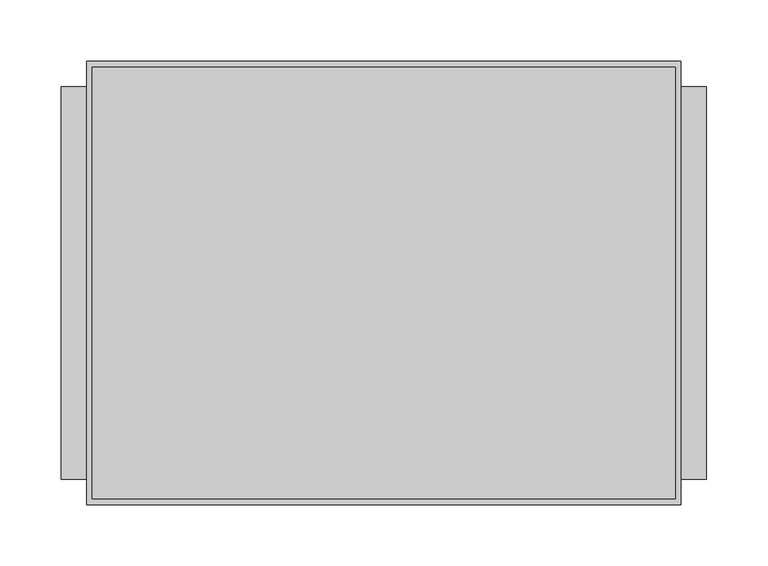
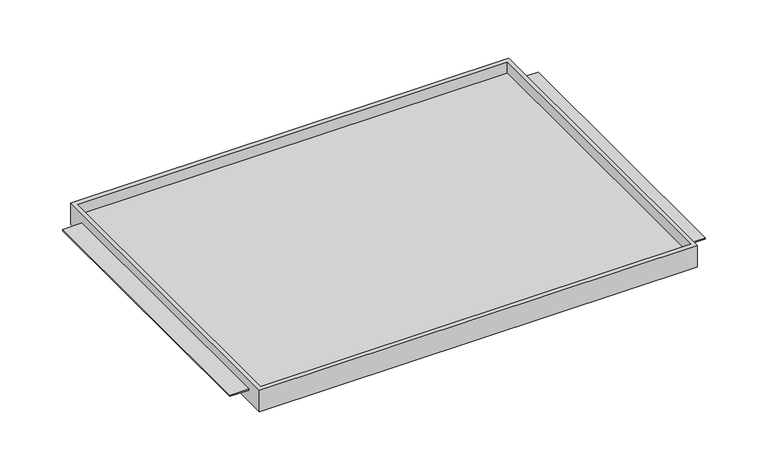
"""IFC4 building model written with IfcOpenShell, lengths in millimetres: furniture geometry."""

from ifc_helpers import new_model, si_unit, origin, place, context, project, spatial, faceted_brep, source, transform, mapped, element, save


def furniture_af5c8c58(model_context):
    return source(origin(), model_context, "Body", "Brep", [
        faceted_brep([(-242.7689646, -180.975, 1193.8), (242.7689646, -180.975, 1193.8), (242.7689646, -180.975, 1219.2), (-242.7689646, -180.975, 1219.2), (-242.7689646, 180.975, 1193.8), (-242.7689646, 180.975, 1219.2), (242.7689646, 180.975, 1219.2), (242.7689646, 180.975, 1193.8), (242.7689646, -160.3374879, 1208.1002), (242.7689646, 160.3374879, 1208.1002), (242.7689646, 160.3374879, 1206.5), (242.7689646, -160.3374879, 1206.5), (238.125, -176.2125, 1219.2), (-238.125, -176.2125, 1219.2), (-238.125, 175.91278, 1219.2), (238.125, 175.91278, 1219.2), (-242.7689646, 160.3374879, 1208.1002), (-242.7689646, -160.3374879, 1208.1002), (-242.7689646, -160.3374879, 1206.5), (-242.7689646, 160.3374879, 1206.5), (-238.125, -176.2125, 1206.5), (238.125, -176.2125, 1206.5), (238.125, 175.91278, 1206.5), (-238.125, 175.91278, 1206.5), (-263.525, 160.3374879, 1208.1002), (-263.525, -160.3374879, 1208.1002), (263.525, -160.3374879, 1208.1002), (263.525, 160.3374879, 1208.1002), (-263.525, -160.3374879, 1206.5), (-263.525, 160.3374879, 1206.5), (263.525, -160.3374879, 1206.5), (263.525, 160.3374879, 1206.5)], [[[0, 1, 2, 3]], [[4, 5, 6, 7]], [[1, 0, 4, 7]], [[2, 1, 7, 6], [8, 9, 10, 11]], [[3, 2, 6, 5], [12, 13, 14, 15]], [[0, 3, 5, 4], [16, 17, 18, 19]], [[20, 21, 22, 23]], [[21, 20, 13, 12]], [[22, 21, 12, 15]], [[23, 22, 15, 14]], [[20, 23, 14, 13]], [[16, 24, 25, 17]], [[26, 27, 9, 8]], [[18, 28, 29, 19]], [[30, 11, 10, 31]], [[24, 16, 19, 29]], [[25, 24, 29, 28]], [[17, 25, 28, 18]], [[27, 26, 30, 31]], [[9, 27, 31, 10]], [[26, 8, 11, 30]]]),
    ])


if __name__ == "__main__":
    model = new_model("IFC4")
    model_context = context("Model", 3, world=origin())
    ifc_project = project(units=[si_unit("LENGTHUNIT", "METRE", prefix="MILLI")], contexts=[model_context])
    site = spatial("IfcSite", under=ifc_project)
    building = spatial("IfcBuilding", under=site)
    placement = place(None, origin())
    furniture_shape = furniture_af5c8c58(model_context)
    element("IfcFurniture", 1, ObjectType="HermanMiller_CoStruc_CO203_CTrayShelf : 14\"D x 20\"W", at=placement, inside=building, context=model_context, shape_type="MappedRepresentation", body=[
        mapped(furniture_shape, transform((0.0, 0.0, 0.0), x_axis=(1.0, 0.0, 0.0), y_axis=(0.0, 1.0, 0.0), z_axis=(0.0, 0.0, 1.0))),
    ])
    save(model, "model.ifc")
